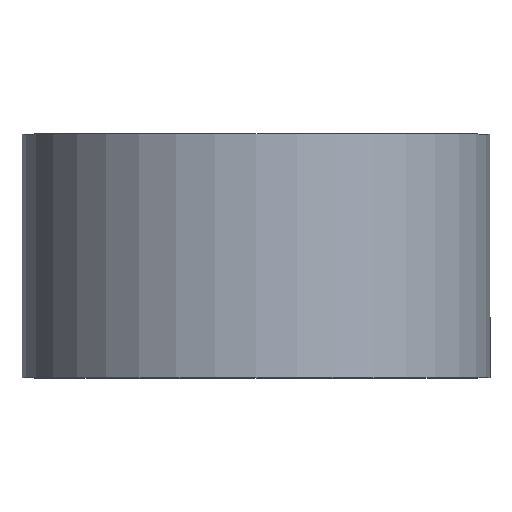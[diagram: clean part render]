
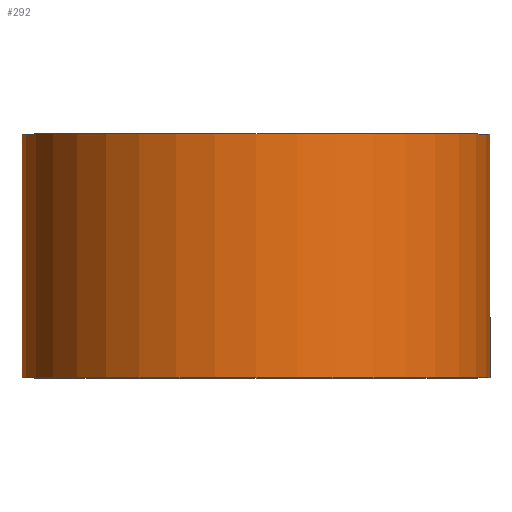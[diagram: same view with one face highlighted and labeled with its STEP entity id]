
A CAD part, top view. The second image highlights one B-rep face of the part: STEP entity #292.
In plain terms, the highlighted cylindrical face has radius 24 mm (diameter 48 mm), a partial arc.
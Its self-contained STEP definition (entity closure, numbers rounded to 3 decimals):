
#3 = CARTESIAN_POINT ( 'NONE',  ( -24., 25., 0. ) ) ;
#13 = VERTEX_POINT ( 'NONE', #3 ) ;
#19 = DIRECTION ( 'NONE',  ( 0., 1., 0. ) ) ;
#23 = AXIS2_PLACEMENT_3D ( 'NONE', #282, #234, #210 ) ;
#31 = CARTESIAN_POINT ( 'NONE',  ( 24., 0., 0. ) ) ;
#35 = EDGE_CURVE ( 'NONE', #94, #13, #168, .T. ) ;
#61 = EDGE_CURVE ( 'NONE', #79, #244, #138, .T. ) ;
#64 = DIRECTION ( 'NONE',  ( -1., 0., 0. ) ) ;
#69 = ORIENTED_EDGE ( 'NONE', *, *, #252, .T. ) ;
#72 = EDGE_LOOP ( 'NONE', ( #69, #286, #152, #250 ) ) ;
#79 = VERTEX_POINT ( 'NONE', #31 ) ;
#82 = VECTOR ( 'NONE', #253, 1000. ) ;
#94 = VERTEX_POINT ( 'NONE', #134 ) ;
#101 = CARTESIAN_POINT ( 'NONE',  ( 24., 25., 0. ) ) ;
#134 = CARTESIAN_POINT ( 'NONE',  ( -24., 0., 0. ) ) ;
#135 = DIRECTION ( 'NONE',  ( 0., 1., 0. ) ) ;
#138 = LINE ( 'NONE', #275, #82 ) ;
#141 = AXIS2_PLACEMENT_3D ( 'NONE', #167, #19, #265 ) ;
#152 = ORIENTED_EDGE ( 'NONE', *, *, #237, .F. ) ;
#167 = CARTESIAN_POINT ( 'NONE',  ( 0., 0., 0. ) ) ;
#168 = LINE ( 'NONE', #199, #178 ) ;
#171 = FACE_OUTER_BOUND ( 'NONE', #72, .T. ) ;
#176 = CIRCLE ( 'NONE', #23, 24. ) ;
#178 = VECTOR ( 'NONE', #135, 1000. ) ;
#199 = CARTESIAN_POINT ( 'NONE',  ( -24., 0., 0. ) ) ;
#201 = AXIS2_PLACEMENT_3D ( 'NONE', #260, #206, #64 ) ;
#206 = DIRECTION ( 'NONE',  ( 0., 1., 0. ) ) ;
#210 = DIRECTION ( 'NONE',  ( -1., 0., 0. ) ) ;
#217 = CYLINDRICAL_SURFACE ( 'NONE', #141, 24. ) ;
#230 = CIRCLE ( 'NONE', #201, 24. ) ;
#234 = DIRECTION ( 'NONE',  ( 0., 1., 0. ) ) ;
#237 = EDGE_CURVE ( 'NONE', #13, #244, #230, .T. ) ;
#244 = VERTEX_POINT ( 'NONE', #101 ) ;
#250 = ORIENTED_EDGE ( 'NONE', *, *, #35, .F. ) ;
#252 = EDGE_CURVE ( 'NONE', #94, #79, #176, .T. ) ;
#253 = DIRECTION ( 'NONE',  ( 0., 1., 0. ) ) ;
#260 = CARTESIAN_POINT ( 'NONE',  ( 0., 25., 0. ) ) ;
#265 = DIRECTION ( 'NONE',  ( -1., 0., 0. ) ) ;
#275 = CARTESIAN_POINT ( 'NONE',  ( 24., 0., 0. ) ) ;
#282 = CARTESIAN_POINT ( 'NONE',  ( 0., 0., 0. ) ) ;
#286 = ORIENTED_EDGE ( 'NONE', *, *, #61, .T. ) ;
#292 = ADVANCED_FACE ( 'NONE', ( #171 ), #217, .T. ) ;
